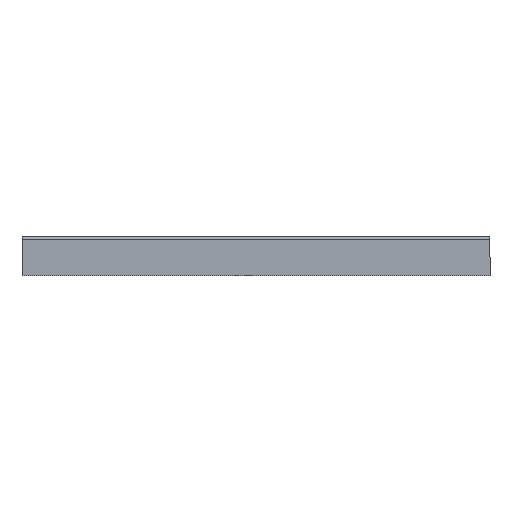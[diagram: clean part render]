
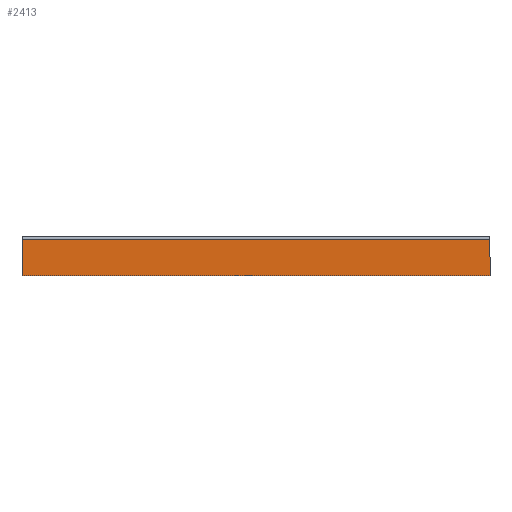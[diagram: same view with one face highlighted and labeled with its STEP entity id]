
A CAD part, left-side view. The second image highlights one B-rep face of the part: STEP entity #2413.
In plain terms, the highlighted planar face has unit normal (-1, 0, 0).
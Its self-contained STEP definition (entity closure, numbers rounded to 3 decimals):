
#80 = PLANE ( 'NONE',  #2693 ) ;
#200 = ORIENTED_EDGE ( 'NONE', *, *, #2629, .T. ) ;
#220 = ORIENTED_EDGE ( 'NONE', *, *, #2847, .F. ) ;
#245 = ORIENTED_EDGE ( 'NONE', *, *, #2849, .T. ) ;
#440 = ORIENTED_EDGE ( 'NONE', *, *, #2845, .F. ) ;
#686 = VERTEX_POINT ( 'NONE', #3459 ) ;
#687 = VERTEX_POINT ( 'NONE', #3460 ) ;
#933 = CARTESIAN_POINT ( 'NONE',  ( -100., 0., 0. ) ) ;
#934 = DIRECTION ( 'NONE',  ( 0., 0., 1. ) ) ;
#1248 = VECTOR ( 'NONE', #934, 1000. ) ;
#1252 = LINE ( 'NONE', #933, #1248 ) ;
#1457 = VECTOR ( 'NONE', #3304, 1000. ) ;
#1460 = VECTOR ( 'NONE', #3294, 1000. ) ;
#1462 = LINE ( 'NONE', #3293, #1460 ) ;
#1466 = VECTOR ( 'NONE', #3299, 1000. ) ;
#1467 = LINE ( 'NONE', #3303, #1457 ) ;
#1472 = LINE ( 'NONE', #3298, #1466 ) ;
#2254 = EDGE_LOOP ( 'NONE', ( #200, #220, #440, #245 ) ) ;
#2413 = ADVANCED_FACE ( 'NONE', ( #3667 ), #80, .T. ) ;
#2629 = EDGE_CURVE ( 'NONE', #687, #686, #1252, .T. ) ;
#2693 = AXIS2_PLACEMENT_3D ( 'NONE', #3060, #3066, #3067 ) ;
#2845 = EDGE_CURVE ( 'NONE', #4058, #4059, #1462, .T. ) ;
#2847 = EDGE_CURVE ( 'NONE', #4059, #686, #1472, .T. ) ;
#2849 = EDGE_CURVE ( 'NONE', #4058, #687, #1467, .T. ) ;
#3060 = CARTESIAN_POINT ( 'NONE',  ( -100., 479., 0. ) ) ;
#3066 = DIRECTION ( 'NONE',  ( -1., 0., 0. ) ) ;
#3067 = DIRECTION ( 'NONE',  ( 0., 0., 1. ) ) ;
#3293 = CARTESIAN_POINT ( 'NONE',  ( -100., 479., 0. ) ) ;
#3294 = DIRECTION ( 'NONE',  ( 0., 0., 1. ) ) ;
#3298 = CARTESIAN_POINT ( 'NONE',  ( -100., 479., 37. ) ) ;
#3299 = DIRECTION ( 'NONE',  ( 0., -1., 0. ) ) ;
#3303 = CARTESIAN_POINT ( 'NONE',  ( -100., 479., 0. ) ) ;
#3304 = DIRECTION ( 'NONE',  ( 0., -1., 0. ) ) ;
#3331 = CARTESIAN_POINT ( 'NONE',  ( -100., 479., 0. ) ) ;
#3332 = CARTESIAN_POINT ( 'NONE',  ( -100., 479., 37. ) ) ;
#3459 = CARTESIAN_POINT ( 'NONE',  ( -100., 0., 37. ) ) ;
#3460 = CARTESIAN_POINT ( 'NONE',  ( -100., 0., 0. ) ) ;
#3667 = FACE_OUTER_BOUND ( 'NONE', #2254, .T. ) ;
#4058 = VERTEX_POINT ( 'NONE', #3331 ) ;
#4059 = VERTEX_POINT ( 'NONE', #3332 ) ;
